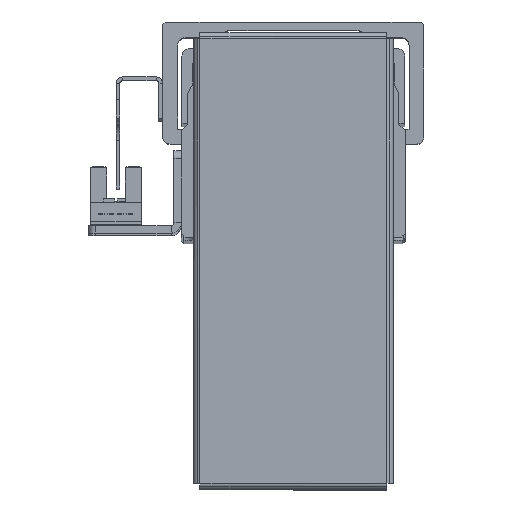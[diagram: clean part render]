
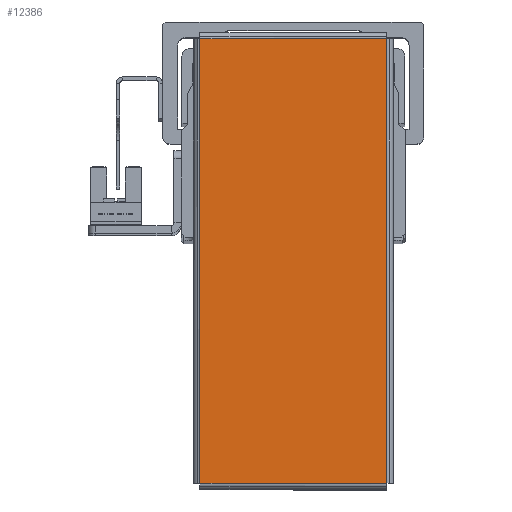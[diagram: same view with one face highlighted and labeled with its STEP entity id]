
A CAD part, top view. The second image highlights one B-rep face of the part: STEP entity #12386.
In plain terms, the highlighted planar face has unit normal (0, 0, 1) as drawn and (0, 0, -1) by its records, which use the part's own axes.
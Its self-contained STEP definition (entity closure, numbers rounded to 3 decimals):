
#111 = ORIENTED_EDGE ( 'NONE', *, *, #9525, .T. ) ;
#113 = ORIENTED_EDGE ( 'NONE', *, *, #9505, .T. ) ;
#127 = ORIENTED_EDGE ( 'NONE', *, *, #9560, .T. ) ;
#147 = ORIENTED_EDGE ( 'NONE', *, *, #9508, .T. ) ;
#4324 = FACE_OUTER_BOUND ( 'NONE', #12733, .T. ) ;
#9505 = EDGE_CURVE ( 'NONE', #12917, #12927, #18816, .T. ) ;
#9508 = EDGE_CURVE ( 'NONE', #12960, #12917, #18838, .T. ) ;
#9525 = EDGE_CURVE ( 'NONE', #12967, #12960, #18809, .T. ) ;
#9560 = EDGE_CURVE ( 'NONE', #12927, #12967, #18882, .T. ) ;
#11068 = CARTESIAN_POINT ( 'NONE',  ( 59.513, 25.043, -1. ) ) ;
#11087 = CARTESIAN_POINT ( 'NONE',  ( -59.543, 25.013, -1. ) ) ;
#11096 = DIRECTION ( 'NONE',  ( 0., -1., 0. ) ) ;
#11126 = DIRECTION ( 'NONE',  ( 1., 0., 0. ) ) ;
#11159 = DIRECTION ( 'NONE',  ( 0., 1., 0. ) ) ;
#11160 = CARTESIAN_POINT ( 'NONE',  ( -59.513, -25.043, -1. ) ) ;
#11242 = DIRECTION ( 'NONE',  ( -1., 0., 0. ) ) ;
#11272 = CARTESIAN_POINT ( 'NONE',  ( 59.543, -25.013, -1. ) ) ;
#12386 = ADVANCED_FACE ( 'NONE', ( #4324 ), #18286, .F. ) ;
#12733 = EDGE_LOOP ( 'NONE', ( #113, #127, #111, #147 ) ) ;
#12917 = VERTEX_POINT ( 'NONE', #18295 ) ;
#12927 = VERTEX_POINT ( 'NONE', #18278 ) ;
#12960 = VERTEX_POINT ( 'NONE', #18321 ) ;
#12967 = VERTEX_POINT ( 'NONE', #18346 ) ;
#18260 = DIRECTION ( 'NONE',  ( 1., 0., 0. ) ) ;
#18270 = DIRECTION ( 'NONE',  ( 0., 0., 1. ) ) ;
#18278 = CARTESIAN_POINT ( 'NONE',  ( 59.513, -25.013, -1. ) ) ;
#18286 = PLANE ( 'NONE',  #25884 ) ;
#18295 = CARTESIAN_POINT ( 'NONE',  ( 59.513, 25.013, -1. ) ) ;
#18296 = CARTESIAN_POINT ( 'NONE',  ( 0., 0., -1. ) ) ;
#18321 = CARTESIAN_POINT ( 'NONE',  ( -59.513, 25.013, -1. ) ) ;
#18346 = CARTESIAN_POINT ( 'NONE',  ( -59.513, -25.013, -1. ) ) ;
#18798 = VECTOR ( 'NONE', #11126, 1000. ) ;
#18799 = VECTOR ( 'NONE', #11096, 1000. ) ;
#18809 = LINE ( 'NONE', #11160, #18840 ) ;
#18816 = LINE ( 'NONE', #11068, #18799 ) ;
#18838 = LINE ( 'NONE', #11087, #18798 ) ;
#18840 = VECTOR ( 'NONE', #11159, 1000. ) ;
#18882 = LINE ( 'NONE', #11272, #18897 ) ;
#18897 = VECTOR ( 'NONE', #11242, 1000. ) ;
#25884 = AXIS2_PLACEMENT_3D ( 'NONE', #18296, #18270, #18260 ) ;
